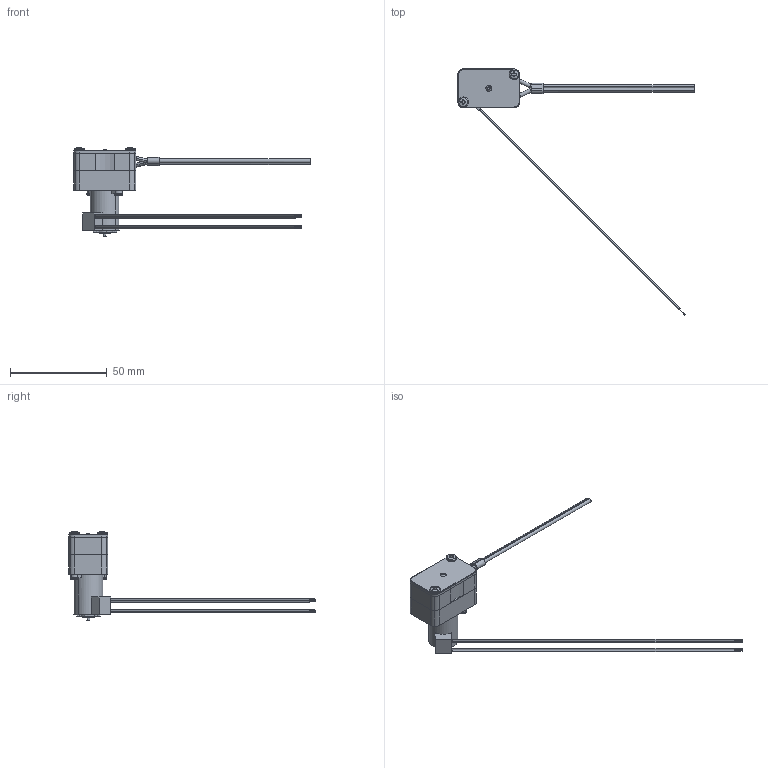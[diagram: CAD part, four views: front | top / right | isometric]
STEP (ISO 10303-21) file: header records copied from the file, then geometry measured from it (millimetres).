
FILE_DESCRIPTION (( 'STEP AP214' ), '1' );
FILE_NAME ('rp-hx.stp', '2023-03-09T04:33:50', ( '' ), ( '' ), 'SwSTEP 2.0', 'SolidWorks 2022', '' );
FILE_SCHEMA (( 'AUTOMOTIVE_DESIGN' ));
Length unit declared in the file: millimetre
Products named in the file (12): WEB用蓋; NONE-1; Part2; WEB用_バインドチューブ; WEB用ロータ; NONE; ソリッド1-3; rp-hx; WEB用モータAssy; WEB用_モータ; モータ配線; WEB用ヘッドケース
Assembly tree (13 placements, depth 3):
  rp-hx
    ソリッド1-3
    NONE  x2
    NONE-1  x2
    WEB用ヘッドケース
    WEB用蓋
    WEB用ロータ
    Part2
    WEB用_バインドチューブ
    WEB用モータAssy
      WEB用_モータ
      モータ配線
Bounding box: 122 x 127 x 46.07 mm (x, y, z)
Volume: 14997.2 mm3; surface area: 14004.1 mm2
Topology: 16 solids, 22 shells, 476 faces, 1134 edges, 743 vertices
Faces by surface type: cylinder 230, plane 185, torus 31, cone 26, sphere 4
Entity records: 12880 total; most frequent: DIRECTION 2394, CARTESIAN_POINT 2116, ORIENTED_EDGE 1972, EDGE_CURVE 986, AXIS2_PLACEMENT_3D 981, VERTEX_POINT 647, CIRCLE 544, EDGE_LOOP 491
